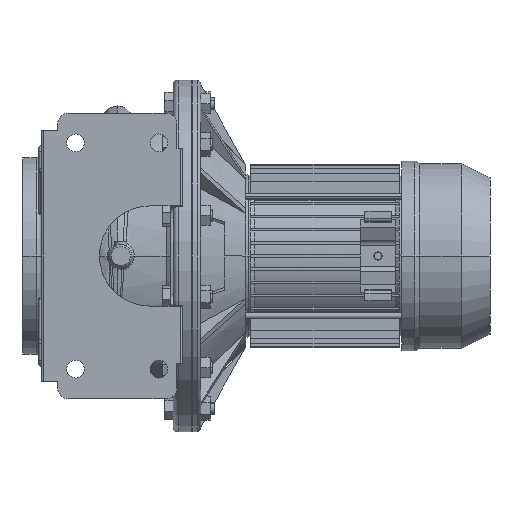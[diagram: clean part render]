
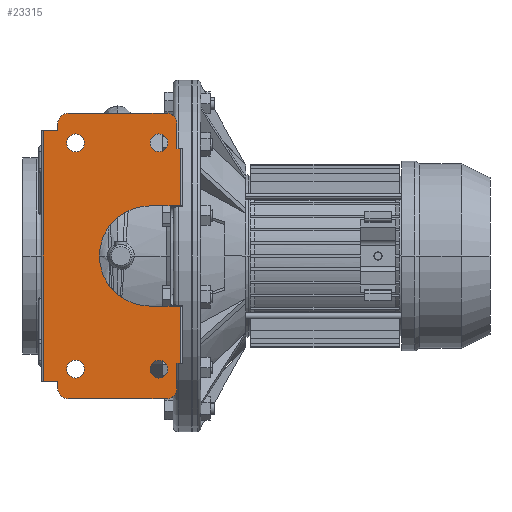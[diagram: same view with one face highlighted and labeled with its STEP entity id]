
A CAD part, front view. The second image highlights one B-rep face of the part: STEP entity #23315.
In plain terms, the highlighted planar face has unit normal (0, -1, 0).
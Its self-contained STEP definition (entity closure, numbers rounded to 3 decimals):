
#19702=CARTESIAN_POINT('',(35.,-160.,-95.));
#19703=DIRECTION('',(0.,-1.,0.));
#19704=DIRECTION('',(1.,0.,0.));
#19705=AXIS2_PLACEMENT_3D('',#19702,#19703,#19704);
#19710=CARTESIAN_POINT('',(35.,-160.,-95.));
#19711=DIRECTION('',(0.,-1.,0.));
#19712=DIRECTION('',(-1.,0.,0.));
#19713=AXIS2_PLACEMENT_3D('',#19710,#19711,#19712);
#19718=CARTESIAN_POINT('',(-35.,-160.,-95.));
#19719=DIRECTION('',(0.,-1.,0.));
#19720=DIRECTION('',(1.,0.,0.));
#19721=AXIS2_PLACEMENT_3D('',#19718,#19719,#19720);
#19726=CARTESIAN_POINT('',(-35.,-160.,-95.));
#19727=DIRECTION('',(0.,-1.,0.));
#19728=DIRECTION('',(-1.,0.,0.));
#19729=AXIS2_PLACEMENT_3D('',#19726,#19727,#19728);
#19734=CARTESIAN_POINT('',(35.,-160.,95.));
#19735=DIRECTION('',(0.,-1.,0.));
#19736=DIRECTION('',(1.,0.,0.));
#19737=AXIS2_PLACEMENT_3D('',#19734,#19735,#19736);
#19742=CARTESIAN_POINT('',(35.,-160.,95.));
#19743=DIRECTION('',(0.,-1.,0.));
#19744=DIRECTION('',(-1.,0.,0.));
#19745=AXIS2_PLACEMENT_3D('',#19742,#19743,#19744);
#19750=CARTESIAN_POINT('',(-35.,-160.,95.));
#19751=DIRECTION('',(0.,-1.,0.));
#19752=DIRECTION('',(1.,0.,0.));
#19753=AXIS2_PLACEMENT_3D('',#19750,#19751,#19752);
#19758=CARTESIAN_POINT('',(-35.,-160.,95.));
#19759=DIRECTION('',(0.,-1.,0.));
#19760=DIRECTION('',(-1.,0.,0.));
#19761=AXIS2_PLACEMENT_3D('',#19758,#19759,#19760);
#19766=DIRECTION('',(0.,0.,1.));
#19767=VECTOR('',#19766,48.);
#19768=CARTESIAN_POINT('',(53.,-160.,-90.));
#19769=LINE('',#19768,#19767);
#19773=DIRECTION('',(0.,0.,-1.));
#19774=VECTOR('',#19773,21.);
#19775=CARTESIAN_POINT('',(50.,-160.,-90.));
#19776=LINE('',#19775,#19774);
#19780=CARTESIAN_POINT('',(41.,-160.,-111.));
#19781=DIRECTION('',(0.,-1.,0.));
#19782=DIRECTION('',(0.,0.,-1.));
#19783=AXIS2_PLACEMENT_3D('',#19780,#19781,#19782);
#19788=DIRECTION('',(-1.,0.,0.));
#19789=VECTOR('',#19788,82.);
#19790=CARTESIAN_POINT('',(41.,-160.,-120.));
#19791=LINE('',#19790,#19789);
#19795=CARTESIAN_POINT('',(-41.,-160.,-111.));
#19796=DIRECTION('',(0.,-1.,0.));
#19797=DIRECTION('',(-1.,0.,0.));
#19798=AXIS2_PLACEMENT_3D('',#19795,#19796,#19797);
#19803=DIRECTION('',(0.,0.,1.));
#19804=VECTOR('',#19803,6.);
#19805=CARTESIAN_POINT('',(-50.,-160.,-111.));
#19806=LINE('',#19805,#19804);
#19810=DIRECTION('',(-1.,0.,0.));
#19811=VECTOR('',#19810,12.);
#19812=CARTESIAN_POINT('',(-50.,-160.,-105.));
#19813=LINE('',#19812,#19811);
#19817=DIRECTION('',(1.,0.,0.));
#19818=VECTOR('',#19817,12.);
#19819=CARTESIAN_POINT('',(-62.,-160.,105.));
#19820=LINE('',#19819,#19818);
#19824=DIRECTION('',(0.,0.,1.));
#19825=VECTOR('',#19824,6.);
#19826=CARTESIAN_POINT('',(-50.,-160.,105.));
#19827=LINE('',#19826,#19825);
#19831=CARTESIAN_POINT('',(-41.,-160.,111.));
#19832=DIRECTION('',(0.,-1.,0.));
#19833=DIRECTION('',(0.,0.,1.));
#19834=AXIS2_PLACEMENT_3D('',#19831,#19832,#19833);
#19839=DIRECTION('',(1.,0.,0.));
#19840=VECTOR('',#19839,82.);
#19841=CARTESIAN_POINT('',(-41.,-160.,120.));
#19842=LINE('',#19841,#19840);
#19846=CARTESIAN_POINT('',(41.,-160.,111.));
#19847=DIRECTION('',(0.,-1.,0.));
#19848=DIRECTION('',(1.,0.,0.));
#19849=AXIS2_PLACEMENT_3D('',#19846,#19847,#19848);
#19854=DIRECTION('',(0.,0.,-1.));
#19855=VECTOR('',#19854,21.);
#19856=CARTESIAN_POINT('',(50.,-160.,111.));
#19857=LINE('',#19856,#19855);
#19861=DIRECTION('',(0.,0.,1.));
#19862=VECTOR('',#19861,48.);
#19863=CARTESIAN_POINT('',(53.,-160.,42.));
#19864=LINE('',#19863,#19862);
#19868=CARTESIAN_POINT('',(27.,-160.,0.));
#19869=DIRECTION('',(0.,-1.,0.));
#19870=DIRECTION('',(0.,0.,1.));
#19871=AXIS2_PLACEMENT_3D('',#19868,#19869,#19870);
#19948=DIRECTION('',(1.,0.,0.));
#19949=VECTOR('',#19948,26.);
#19950=CARTESIAN_POINT('',(27.,-160.,42.));
#19951=LINE('',#19950,#19949);
#20035=DIRECTION('',(-1.,0.,0.));
#20036=VECTOR('',#20035,26.);
#20037=CARTESIAN_POINT('',(53.,-160.,-42.));
#20038=LINE('',#20037,#20036);
#21079=DIRECTION('',(1.,0.,0.));
#21080=VECTOR('',#21079,3.);
#21081=CARTESIAN_POINT('',(50.,-160.,-90.));
#21082=LINE('',#21081,#21080);
#21143=DIRECTION('',(0.,0.,1.));
#21144=VECTOR('',#21143,210.);
#21145=CARTESIAN_POINT('',(-62.,-160.,-105.));
#21146=LINE('',#21145,#21144);
#21201=DIRECTION('',(-1.,0.,0.));
#21202=VECTOR('',#21201,3.);
#21203=CARTESIAN_POINT('',(53.,-160.,90.));
#21204=LINE('',#21203,#21202);
#22372=CARTESIAN_POINT('',(-27.5,-160.,95.));
#22373=CARTESIAN_POINT('',(-42.5,-160.,95.));
#22374=VERTEX_POINT('',#22372);
#22375=VERTEX_POINT('',#22373);
#22376=CARTESIAN_POINT('',(42.5,-160.,95.));
#22377=CARTESIAN_POINT('',(27.5,-160.,95.));
#22378=VERTEX_POINT('',#22376);
#22379=VERTEX_POINT('',#22377);
#22380=CARTESIAN_POINT('',(-27.5,-160.,-95.));
#22381=CARTESIAN_POINT('',(-42.5,-160.,-95.));
#22382=VERTEX_POINT('',#22380);
#22383=VERTEX_POINT('',#22381);
#22384=CARTESIAN_POINT('',(42.5,-160.,-95.));
#22385=CARTESIAN_POINT('',(27.5,-160.,-95.));
#22386=VERTEX_POINT('',#22384);
#22387=VERTEX_POINT('',#22385);
#22388=CARTESIAN_POINT('',(27.,-160.,42.));
#22389=CARTESIAN_POINT('',(27.,-160.,-42.));
#22390=VERTEX_POINT('',#22388);
#22391=VERTEX_POINT('',#22389);
#22408=CARTESIAN_POINT('',(50.,-160.,-90.));
#22410=VERTEX_POINT('',#22408);
#22412=CARTESIAN_POINT('',(-50.,-160.,-105.));
#22414=VERTEX_POINT('',#22412);
#22416=CARTESIAN_POINT('',(-50.,-160.,105.));
#22418=VERTEX_POINT('',#22416);
#22420=CARTESIAN_POINT('',(50.,-160.,90.));
#22422=VERTEX_POINT('',#22420);
#22424=CARTESIAN_POINT('',(-62.,-160.,-105.));
#22425=VERTEX_POINT('',#22424);
#22426=CARTESIAN_POINT('',(-62.,-160.,105.));
#22427=VERTEX_POINT('',#22426);
#22437=CARTESIAN_POINT('',(-50.,-160.,111.));
#22439=VERTEX_POINT('',#22437);
#22442=CARTESIAN_POINT('',(-41.,-160.,120.));
#22443=VERTEX_POINT('',#22442);
#22445=CARTESIAN_POINT('',(41.,-160.,120.));
#22447=VERTEX_POINT('',#22445);
#22450=CARTESIAN_POINT('',(50.,-160.,111.));
#22451=VERTEX_POINT('',#22450);
#22453=CARTESIAN_POINT('',(50.,-160.,-111.));
#22455=VERTEX_POINT('',#22453);
#22458=CARTESIAN_POINT('',(41.,-160.,-120.));
#22459=VERTEX_POINT('',#22458);
#22461=CARTESIAN_POINT('',(-41.,-160.,-120.));
#22463=VERTEX_POINT('',#22461);
#22466=CARTESIAN_POINT('',(-50.,-160.,-111.));
#22467=VERTEX_POINT('',#22466);
#22564=CARTESIAN_POINT('',(53.,-160.,42.));
#22566=VERTEX_POINT('',#22564);
#22568=CARTESIAN_POINT('',(53.,-160.,-42.));
#22570=VERTEX_POINT('',#22568);
#22572=CARTESIAN_POINT('',(53.,-160.,-90.));
#22573=VERTEX_POINT('',#22572);
#22574=CARTESIAN_POINT('',(53.,-160.,90.));
#22575=VERTEX_POINT('',#22574);
#23245=CARTESIAN_POINT('',(55.,-160.,42.));
#23246=DIRECTION('',(0.,1.,0.));
#23247=DIRECTION('',(0.,0.,1.));
#23248=AXIS2_PLACEMENT_3D('',#23245,#23246,#23247);
#23249=PLANE('',#23248);
#23251=ORIENTED_EDGE('',*,*,#23250,.F.);
#23253=ORIENTED_EDGE('',*,*,#23252,.F.);
#23255=ORIENTED_EDGE('',*,*,#23254,.T.);
#23257=ORIENTED_EDGE('',*,*,#23256,.F.);
#23259=ORIENTED_EDGE('',*,*,#23258,.T.);
#23261=ORIENTED_EDGE('',*,*,#23260,.F.);
#23263=ORIENTED_EDGE('',*,*,#23262,.T.);
#23265=ORIENTED_EDGE('',*,*,#23264,.T.);
#23267=ORIENTED_EDGE('',*,*,#23266,.T.);
#23269=ORIENTED_EDGE('',*,*,#23268,.T.);
#23271=ORIENTED_EDGE('',*,*,#23270,.T.);
#23273=ORIENTED_EDGE('',*,*,#23272,.F.);
#23275=ORIENTED_EDGE('',*,*,#23274,.T.);
#23277=ORIENTED_EDGE('',*,*,#23276,.F.);
#23279=ORIENTED_EDGE('',*,*,#23278,.T.);
#23281=ORIENTED_EDGE('',*,*,#23280,.F.);
#23283=ORIENTED_EDGE('',*,*,#23282,.F.);
#23285=ORIENTED_EDGE('',*,*,#23284,.F.);
#23287=ORIENTED_EDGE('',*,*,#23286,.T.);
#23289=ORIENTED_EDGE('',*,*,#23288,.F.);
#23290=EDGE_LOOP('',(#23251,#23253,#23255,#23257,#23259,#23261,#23263,#23265,
#23267,#23269,#23271,#23273,#23275,#23277,#23279,#23281,#23283,#23285,#23287,
#23289));
#23291=FACE_OUTER_BOUND('',#23290,.F.);
#23293=ORIENTED_EDGE('',*,*,#23292,.T.);
#23295=ORIENTED_EDGE('',*,*,#23294,.T.);
#23296=EDGE_LOOP('',(#23293,#23295));
#23297=FACE_BOUND('',#23296,.F.);
#23299=ORIENTED_EDGE('',*,*,#23298,.T.);
#23301=ORIENTED_EDGE('',*,*,#23300,.T.);
#23302=EDGE_LOOP('',(#23299,#23301));
#23303=FACE_BOUND('',#23302,.F.);
#23304=ORIENTED_EDGE('',*,*,#23235,.T.);
#23306=ORIENTED_EDGE('',*,*,#23305,.T.);
#23307=EDGE_LOOP('',(#23304,#23306));
#23308=FACE_BOUND('',#23307,.F.);
#23310=ORIENTED_EDGE('',*,*,#23309,.T.);
#23312=ORIENTED_EDGE('',*,*,#23311,.T.);
#23313=EDGE_LOOP('',(#23310,#23312));
#23314=FACE_BOUND('',#23313,.F.);
#19706=CIRCLE('',#19705,7.5);
#19714=CIRCLE('',#19713,7.5);
#19722=CIRCLE('',#19721,7.5);
#19730=CIRCLE('',#19729,7.5);
#19738=CIRCLE('',#19737,7.5);
#19746=CIRCLE('',#19745,7.5);
#19754=CIRCLE('',#19753,7.5);
#19762=CIRCLE('',#19761,7.5);
#19784=CIRCLE('',#19783,9.);
#19799=CIRCLE('',#19798,9.);
#19835=CIRCLE('',#19834,9.);
#19850=CIRCLE('',#19849,9.);
#19872=CIRCLE('',#19871,42.);
#23235=EDGE_CURVE('',#22374,#22375,#19754,.T.);
#23250=EDGE_CURVE('',#22573,#22570,#19769,.T.);
#23252=EDGE_CURVE('',#22410,#22573,#21082,.T.);
#23254=EDGE_CURVE('',#22410,#22455,#19776,.T.);
#23256=EDGE_CURVE('',#22459,#22455,#19784,.T.);
#23258=EDGE_CURVE('',#22459,#22463,#19791,.T.);
#23260=EDGE_CURVE('',#22467,#22463,#19799,.T.);
#23262=EDGE_CURVE('',#22467,#22414,#19806,.T.);
#23264=EDGE_CURVE('',#22414,#22425,#19813,.T.);
#23266=EDGE_CURVE('',#22425,#22427,#21146,.T.);
#23268=EDGE_CURVE('',#22427,#22418,#19820,.T.);
#23270=EDGE_CURVE('',#22418,#22439,#19827,.T.);
#23272=EDGE_CURVE('',#22443,#22439,#19835,.T.);
#23274=EDGE_CURVE('',#22443,#22447,#19842,.T.);
#23276=EDGE_CURVE('',#22451,#22447,#19850,.T.);
#23278=EDGE_CURVE('',#22451,#22422,#19857,.T.);
#23280=EDGE_CURVE('',#22575,#22422,#21204,.T.);
#23282=EDGE_CURVE('',#22566,#22575,#19864,.T.);
#23284=EDGE_CURVE('',#22390,#22566,#19951,.T.);
#23286=EDGE_CURVE('',#22390,#22391,#19872,.T.);
#23288=EDGE_CURVE('',#22570,#22391,#20038,.T.);
#23292=EDGE_CURVE('',#22382,#22383,#19722,.T.);
#23294=EDGE_CURVE('',#22383,#22382,#19730,.T.);
#23298=EDGE_CURVE('',#22378,#22379,#19738,.T.);
#23300=EDGE_CURVE('',#22379,#22378,#19746,.T.);
#23305=EDGE_CURVE('',#22375,#22374,#19762,.T.);
#23309=EDGE_CURVE('',#22386,#22387,#19706,.T.);
#23311=EDGE_CURVE('',#22387,#22386,#19714,.T.);
#23315=ADVANCED_FACE('',(#23291,#23297,#23303,#23308,#23314),#23249,.F.);
